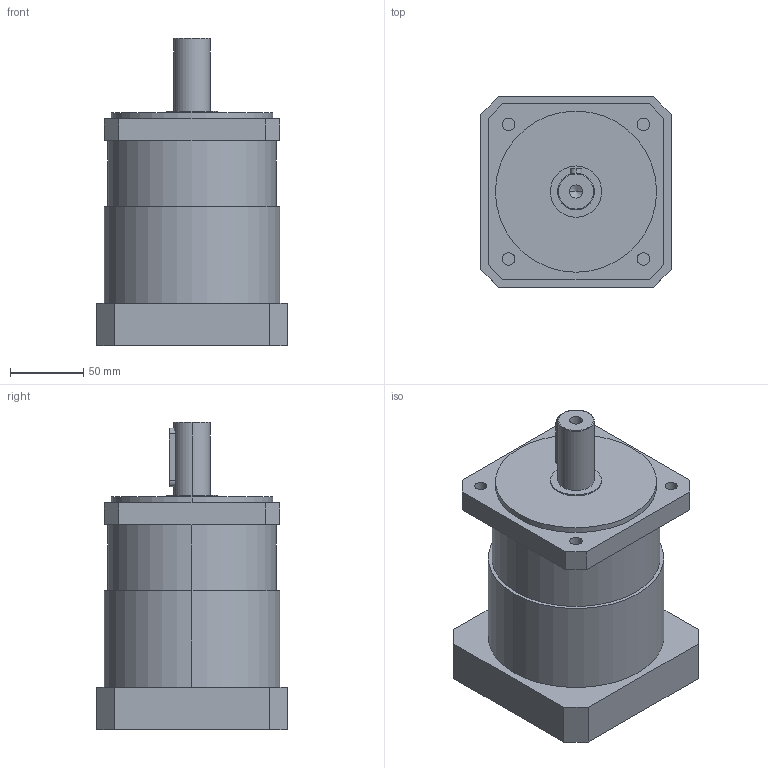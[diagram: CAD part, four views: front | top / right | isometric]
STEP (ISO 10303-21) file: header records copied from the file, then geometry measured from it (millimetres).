
FILE_DESCRIPTION (( 'STEP AP203' ), '1' );
FILE_NAME ('120MM熬厒19P 100W 155R.STEP', '2019-10-25T01:10:41', ( 'China' ), ( 'Home' ), 'SwSTEP 2.0', 'SolidWorks 2016', '' );
FILE_SCHEMA (( 'CONFIG_CONTROL_DESIGN' ));
Length unit declared in the file: millimetre
Products named in the file (1): 120MM熬厒19P 100W 155R
Bounding box: 130 x 130 x 210 mm (x, y, z)
Volume: 1884614 mm3; surface area: 121688.3 mm2
Topology: 2 solids, 2 shells, 83 faces, 195 edges, 121 vertices
Faces by surface type: cylinder 39, plane 32, cone 10, torus 2
Entity records: 2416 total; most frequent: DIRECTION 435, CARTESIAN_POINT 390, ORIENTED_EDGE 370, EDGE_CURVE 185, AXIS2_PLACEMENT_3D 166, VERTEX_POINT 121, EDGE_LOOP 106, LINE 103
